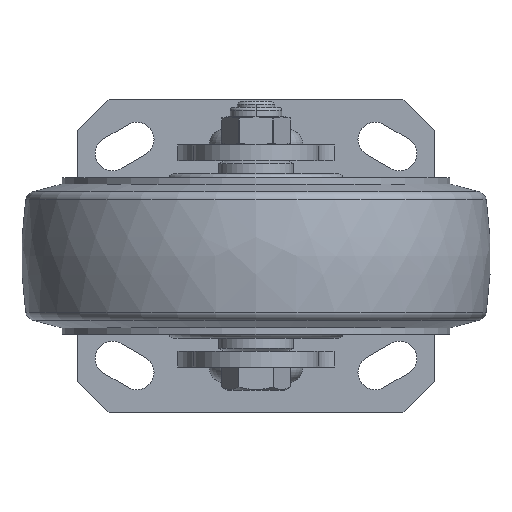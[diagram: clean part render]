
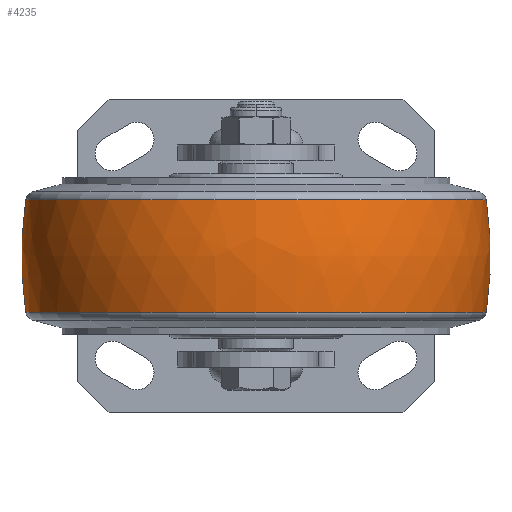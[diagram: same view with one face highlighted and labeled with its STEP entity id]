
A CAD part, front view. The second image highlights one B-rep face of the part: STEP entity #4235.
In plain terms, the highlighted free-form (B-spline) face has degree [3, 3] with [7, 4] control points.
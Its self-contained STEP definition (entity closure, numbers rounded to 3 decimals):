
#3403=CARTESIAN_POINT('',(0.,-45.032,0.));
#3404=DIRECTION('',(0.,0.,1.));
#3405=DIRECTION('',(0.15,0.989,0.));
#3406=AXIS2_PLACEMENT_3D('',#3403,#3404,#3405);
#3408=CARTESIAN_POINT('',(0.,45.032,
0.));
#3409=DIRECTION('',(0.,0.,-1.));
#3410=DIRECTION('',(0.15,-0.989,0.));
#3411=AXIS2_PLACEMENT_3D('',#3408,#3409,#3410);
#3413=CARTESIAN_POINT('',(18.03,0.,0.));
#3414=DIRECTION('',(-1.,0.,0.));
#3415=DIRECTION('',(0.,1.,0.));
#3416=AXIS2_PLACEMENT_3D('',#3413,#3414,#3415);
#3438=CARTESIAN_POINT('',(-18.03,0.,0.));
#3439=DIRECTION('',(-1.,0.,0.));
#3440=DIRECTION('',(0.,1.,0.));
#3441=AXIS2_PLACEMENT_3D('',#3438,#3439,#3440);
#3699=CARTESIAN_POINT('',(18.03,73.606,0.));
#3700=VERTEX_POINT('',#3699);
#3701=CARTESIAN_POINT('',(-18.03,73.606,0.));
#3702=VERTEX_POINT('',#3701);
#3763=CARTESIAN_POINT('',(18.03,-73.606,
0.));
#3764=VERTEX_POINT('',#3763);
#3765=CARTESIAN_POINT('',(-18.03,-73.606,
0.));
#3766=VERTEX_POINT('',#3765);
#4197=CARTESIAN_POINT('',(-18.745,-73.35,
4.615));
#4198=CARTESIAN_POINT('',(-6.3,-75.315,
4.738));
#4199=CARTESIAN_POINT('',(6.3,-75.315,4.738));
#4200=CARTESIAN_POINT('',(18.745,-73.35,4.615));
#4201=CARTESIAN_POINT('',(-18.745,-76.19,
-40.525));
#4202=CARTESIAN_POINT('',(-6.3,-78.231,
-41.61));
#4203=CARTESIAN_POINT('',(6.3,-78.231,
-41.61));
#4204=CARTESIAN_POINT('',(18.745,-76.19,
-40.525));
#4205=CARTESIAN_POINT('',(-18.745,-45.229,
-73.495));
#4206=CARTESIAN_POINT('',(-6.3,-46.44,
-75.463));
#4207=CARTESIAN_POINT('',(6.3,-46.44,
-75.463));
#4208=CARTESIAN_POINT('',(18.745,-45.229,
-73.495));
#4209=CARTESIAN_POINT('',(-18.745,0.,
-73.495));
#4210=CARTESIAN_POINT('',(-6.3,0.,
-75.463));
#4211=CARTESIAN_POINT('',(6.3,0.,
-75.463));
#4212=CARTESIAN_POINT('',(18.745,0.,
-73.495));
#4213=CARTESIAN_POINT('',(-18.745,45.229,
-73.495));
#4214=CARTESIAN_POINT('',(-6.3,46.44,
-75.463));
#4215=CARTESIAN_POINT('',(6.3,46.44,-75.463));
#4216=CARTESIAN_POINT('',(18.745,45.229,-73.495));
#4217=CARTESIAN_POINT('',(-18.745,76.19,
-40.525));
#4218=CARTESIAN_POINT('',(-6.3,78.231,
-41.61));
#4219=CARTESIAN_POINT('',(6.3,78.231,-41.61));
#4220=CARTESIAN_POINT('',(18.745,76.19,-40.525));
#4221=CARTESIAN_POINT('',(-18.745,73.35,4.615));
#4222=CARTESIAN_POINT('',(-6.3,75.315,4.738));
#4223=CARTESIAN_POINT('',(6.3,75.315,4.738));
#4224=CARTESIAN_POINT('',(18.745,73.35,4.615));
#4225=(BOUNDED_SURFACE()B_SPLINE_SURFACE(3,3,((#4197,#4198,#4199,#4200),(#4201,
#4202,#4203,#4204),(#4205,#4206,#4207,#4208),(#4209,#4210,#4211,#4212),(#4213,
#4214,#4215,#4216),(#4217,#4218,#4219,#4220),(#4221,#4222,#4223,#4224)),
.UNSPECIFIED.,.F.,.F.,.F.)B_SPLINE_SURFACE_WITH_KNOTS((4,3,4),(4,4),(0.,1.,
2.),(0.,1.),.UNSPECIFIED.)GEOMETRIC_REPRESENTATION_ITEM()RATIONAL_B_SPLINE_SURFACE(((1.195,1.185,1.185,1.195),(
0.943,0.936,0.936,0.943),(
0.943,0.936,0.936,0.943),(
1.195,1.185,1.185,1.195),(
0.943,0.936,0.936,0.943),(
0.943,0.936,0.936,0.943),(
1.195,1.185,1.185,1.195)))REPRESENTATION_ITEM('')SURFACE());
#4227=ORIENTED_EDGE('',*,*,#4226,.T.);
#4229=ORIENTED_EDGE('',*,*,#4228,.T.);
#4231=ORIENTED_EDGE('',*,*,#4230,.F.);
#4232=ORIENTED_EDGE('',*,*,#4190,.F.);
#4233=EDGE_LOOP('',(#4227,#4229,#4231,#4232));
#4234=FACE_OUTER_BOUND('',#4233,.F.);
#3407=CIRCLE('',#3406,120.);
#3412=CIRCLE('',#3411,120.);
#3417=CIRCLE('',#3416,73.606);
#3442=CIRCLE('',#3441,73.606);
#4190=EDGE_CURVE('',#3700,#3764,#3417,.T.);
#4226=EDGE_CURVE('',#3700,#3702,#3407,.T.);
#4228=EDGE_CURVE('',#3702,#3766,#3442,.T.);
#4230=EDGE_CURVE('',#3764,#3766,#3412,.T.);
#4235=ADVANCED_FACE('',(#4234),#4225,.T.);
